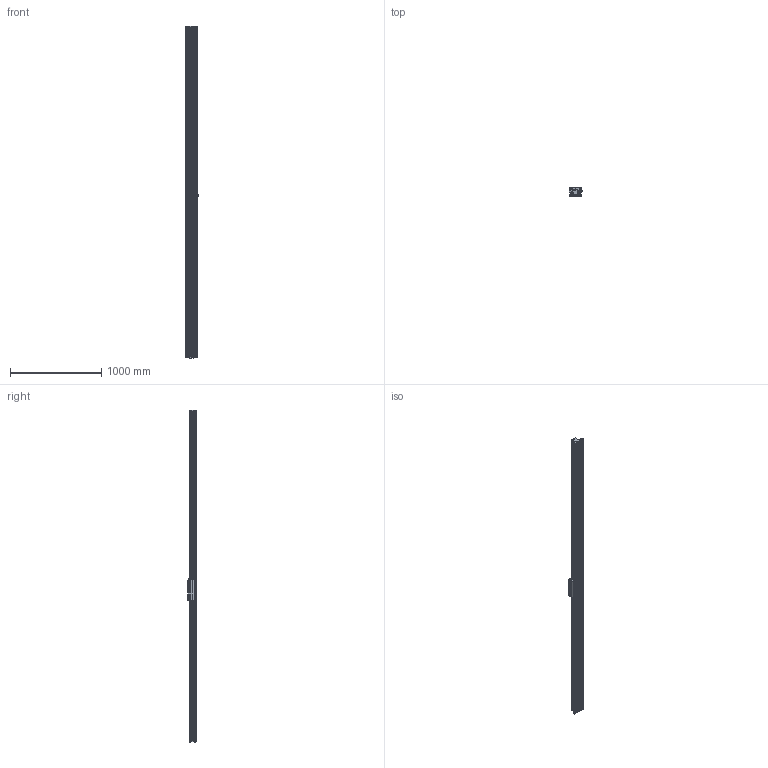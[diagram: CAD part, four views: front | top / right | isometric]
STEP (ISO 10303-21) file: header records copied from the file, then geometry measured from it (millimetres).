
FILE_DESCRIPTION (( 'STEP AP214' ), '1' );
FILE_NAME ('SINADRIVES Linear motor stage MLL20200XS-XX-1-0-ST-00-03636.STEP', '2015-07-13T06:23:28', ( 'Tecnico' ), ( '' ), 'SwSTEP 2.0', 'SolidWorks 2009', '' );
FILE_SCHEMA (( 'AUTOMOTIVE_DESIGN' ));
Length unit declared in the file: millimetre
Products named in the file (7): SINADRIVES PROFILE MLL2XXXX-3620; SINADRIVES CARRIAGE MLL20200XS-1; CARRIAGE MLL20200; Connector power+signal Y-tec 45; SINADRIVES ENDBLOCK MLL2; SINADRIVES ENDBLOCK MLL2-2; SINADRIVES Linear motor stage MLL20200XS-XX-1-0-ST-00-03636
Assembly tree (6 placements, depth 3):
  SINADRIVES Linear motor stage MLL20200XS-XX-1-0-ST-00-03636
    SINADRIVES PROFILE MLL2XXXX-3620
    SINADRIVES ENDBLOCK MLL2-2
    SINADRIVES CARRIAGE MLL20200XS-1
      CARRIAGE MLL20200
      Connector power+signal Y-tec 45
    SINADRIVES ENDBLOCK MLL2
Bounding box: 144.43 x 91 x 3644.8 mm (x, y, z)
Volume: 15756491.2 mm3; surface area: 2718162.7 mm2
Topology: 2 solids, 42 shells, 950 faces, 2640 edges, 1730 vertices
Faces by surface type: plane 445, cylinder 302, bspline 79, cone 70, torus 42, sphere 12
Entity records: 40587 total; most frequent: CARTESIAN_POINT 8656, ORIENTED_EDGE 5024, DIRECTION 4947, EDGE_CURVE 2622, AXIS2_PLACEMENT_3D 1781, VERTEX_POINT 1730, LINE 1385, VECTOR 1385
